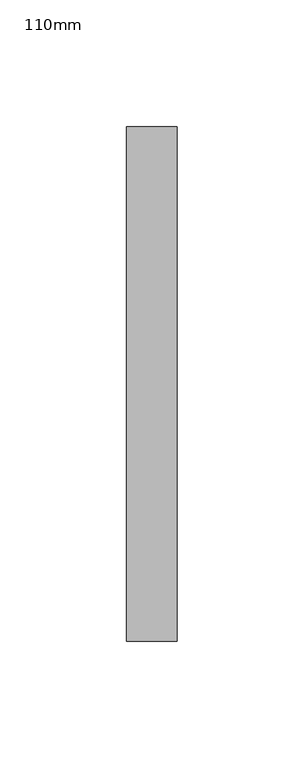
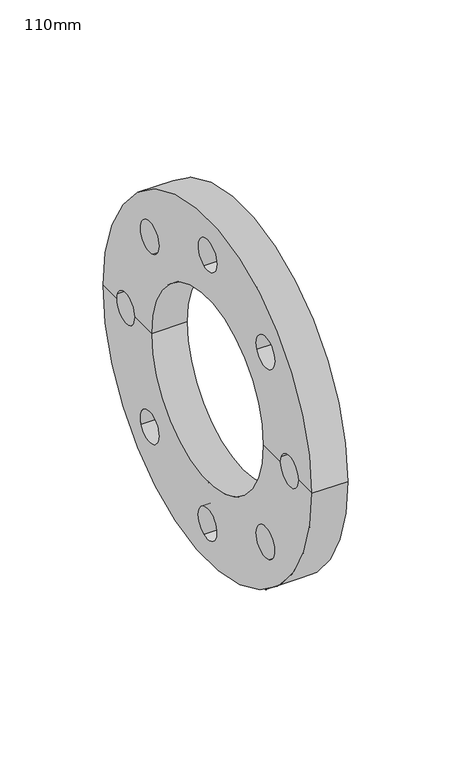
"""IFC4 building model written with IfcOpenShell, lengths in millimetres: pipe fitting geometry, Durapipe_PipeFitting_PVC_BackingFlange : 110mm."""

import ifcopenshell
import ifcopenshell.guid

model = None  # the IFC model being written
_history = None  # IfcOwnerHistory: only IFC2X3 demands one
_inside = {}  # id of a spatial element -> (the spatial element, [elements in it])
_under = {}  # id of a project, library or spatial element -> (it, [spatial elements below it])
_declared = {}  # id of a project -> (the project, [libraries it declares])
_typed = {}  # id of a type object -> (the type object, [elements of that type])
_made_of = {}  # id of a material, layer set ... -> (it, [elements and type objects made of it])


def new_model(schema):
    """Start an empty IFC model of exactly this schema.

    Asked for "IFC4X3", IfcOpenShell would pick the latest addendum, in which some entities
    have other attributes; the version numbers below select the first issue.
    IFC2X3 requires an IfcOwnerHistory on every rooted entity: one is made here for all.
    """
    global model, _history
    if schema == "IFC4X3":
        model = ifcopenshell.file(schema_version=(4, 3, 0, 0))
    else:
        model = ifcopenshell.file(schema=schema)
    _inside.clear()
    _under.clear()
    _declared.clear()
    _typed.clear()
    _made_of.clear()
    _history = None
    if model.schema == "IFC2X3":
        org = make("IfcOrganization", Name="unknown")
        user = make(
            "IfcPersonAndOrganization",
            ThePerson=make("IfcPerson", FamilyName="unknown"),
            TheOrganization=org,
        )
        app = make(
            "IfcApplication",
            ApplicationDeveloper=org,
            Version="unknown",
            ApplicationFullName="unknown",
            ApplicationIdentifier="unknown",
        )
        _history = make(
            "IfcOwnerHistory",
            OwningUser=user,
            OwningApplication=app,
            ChangeAction="ADDED",
            CreationDate=0,
        )
    return model


def make(cls, **values):
    """One entity of the class cls with the attributes given. An attribute that is None is left unset."""
    return model.create_entity(
        cls, **{name: value for name, value in values.items() if value is not None}
    )


def rooted(cls, **values):
    """An entity with a GlobalId (a new one), such as an element, a storey or a relation."""
    return make(cls, GlobalId=ifcopenshell.guid.new(), OwnerHistory=_history, **values)


def si_unit(unit_type, name, prefix=None):
    """IfcSIUnit, for example si_unit("LENGTHUNIT", "METRE", prefix="MILLI")."""
    return make("IfcSIUnit", UnitType=unit_type, Prefix=prefix, Name=name)


def assignment(units):
    """IfcUnitAssignment: the units of a project."""
    return None if units is None else make("IfcUnitAssignment", Units=units)


def point(xyz):
    """IfcCartesianPoint."""
    return None if xyz is None else make("IfcCartesianPoint", Coordinates=xyz)


def direction(xyz):
    """IfcDirection."""
    return None if xyz is None else make("IfcDirection", DirectionRatios=xyz)


def frame(location, z_axis=None, x_axis=None):
    """IfcAxis2Placement3D, a coordinate frame: its origin and axes. An axis left out is left unset."""
    return make(
        "IfcAxis2Placement3D",
        Location=point(location),
        Axis=direction(z_axis),
        RefDirection=direction(x_axis),
    )


def origin():
    """The frame at (0, 0, 0) with its axes left unset."""
    return frame((0.0, 0.0, 0.0))


def place(relative_to, where):
    """IfcLocalPlacement: puts the frame where relative to a parent placement (None: the world)."""
    return make(
        "IfcLocalPlacement", PlacementRelTo=relative_to, RelativePlacement=where
    )


def context(
    kind, dimensions, precision=None, world=None, true_north=None, identifier=None
):
    """IfcGeometricRepresentationContext, for example the 3D "Model" context."""
    return make(
        "IfcGeometricRepresentationContext",
        ContextIdentifier=identifier,
        ContextType=kind,
        CoordinateSpaceDimension=dimensions,
        Precision=precision,
        WorldCoordinateSystem=world,
        TrueNorth=true_north,
    )


def project(units=None, contexts=None):
    """IfcProject with its units and contexts."""
    return rooted(
        "IfcProject",
        Name="project",
        RepresentationContexts=contexts,
        UnitsInContext=assignment(units),
    )


def spatial(cls, under=None, at=None, **own):
    """A site, building, storey or space (cls), placed at a placement, below another one or the project."""
    s = rooted(cls, ObjectPlacement=at, **own)
    if under is not None:
        _under.setdefault(under.id(), (under, []))[1].append(s)
    return s


def polyline(points):
    """IfcPolyline through the points."""
    return make("IfcPolyline", Points=[point(p) for p in points])


def circle_curve(where, radius):
    """IfcCircle in the frame where."""
    return make("IfcCircle", Position=where, Radius=radius)


def shape(context_of_items, identifier, shape_type, items):
    """IfcShapeRepresentation: the items that make up one representation, for example the "Body"."""
    return make(
        "IfcShapeRepresentation",
        ContextOfItems=context_of_items,
        RepresentationIdentifier=identifier,
        RepresentationType=shape_type,
        Items=items,
    )


def source(mapping_origin, context_of_items, identifier, shape_type, items):
    """IfcRepresentationMap: a shape defined once, which mapped items show again and again."""
    return make(
        "IfcRepresentationMap",
        MappingOrigin=mapping_origin,
        MappedRepresentation=shape(context_of_items, identifier, shape_type, items),
    )


def transform(
    local_origin,
    x_axis=None,
    y_axis=None,
    z_axis=None,
    scale=None,
    scale2=None,
    scale3=None,
    uniform=True,
):
    """IfcCartesianTransformationOperator3D, or its non-uniform kind. x_axis, y_axis, z_axis: its Axis1, 2, 3."""
    if uniform:
        return make(
            "IfcCartesianTransformationOperator3D",
            Axis1=direction(x_axis),
            Axis2=direction(y_axis),
            LocalOrigin=point(local_origin),
            Scale=scale,
            Axis3=direction(z_axis),
        )
    return make(
        "IfcCartesianTransformationOperator3DnonUniform",
        Axis1=direction(x_axis),
        Axis2=direction(y_axis),
        LocalOrigin=point(local_origin),
        Scale=scale,
        Axis3=direction(z_axis),
        Scale2=scale2,
        Scale3=scale3,
    )


def mapped(mapping_source, mapping_target):
    """IfcMappedItem: shows the shape of a source again, moved by a transform."""
    return make(
        "IfcMappedItem", MappingSource=mapping_source, MappingTarget=mapping_target
    )


def made_of(thing, what):
    """Note that an element or type object is made of a material, layer set ...; save() writes the relation."""
    if what is not None:
        _made_of.setdefault(what.id(), (what, []))[1].append(thing)
    return thing


def element(
    cls,
    number,
    at=None,
    inside=None,
    cuts=None,
    type_object=None,
    material=None,
    context=None,
    identifier="Body",
    shape_type=None,
    held_by="IfcProductDefinitionShape",
    body=None,
    shapes=None,
    **own,
):
    """One element of the class cls, such as IfcWall. Its Tag is "e" and its number.

    at: its placement. inside: the storey or other place that contains it. cuts: it is an
    opening in that element (IfcRelVoidsElement). A single representation is given by context,
    identifier, shape_type and body (its items); several are given by shapes. held_by: the class
    of the entity that holds the representations. save() writes the other relations.
    """
    e = rooted(cls, Tag="e%d" % number, ObjectPlacement=at, **own)
    if body is not None:
        shapes = [shape(context, identifier, shape_type, body)]
    if shapes is not None:
        e.Representation = make(held_by, Representations=shapes)
    if inside is not None:
        _inside.setdefault(inside.id(), (inside, []))[1].append(e)
    if cuts is not None:
        rooted(
            "IfcRelVoidsElement", RelatingBuildingElement=cuts, RelatedOpeningElement=e
        )
    if type_object is not None:
        _typed.setdefault(type_object.id(), (type_object, []))[1].append(e)
    return made_of(e, material)


def aggregate(whole, parts):
    """IfcRelAggregates: a whole, such as a stair, and the parts it consists of."""
    return rooted("IfcRelAggregates", RelatingObject=whole, RelatedObjects=parts)


def save(model, path):
    """Write the relations noted so far, then the file.

    IfcRelAggregates (storeys below a building ...), IfcRelContainedInSpatialStructure (elements
    in a storey), IfcRelDefinesByType, IfcRelAssociatesMaterial and IfcRelDeclares: one each for
    every whole, place, type object, material and project.
    """
    for whole, parts in _under.values():
        aggregate(whole, parts)
    for where, things in _inside.values():
        rooted(
            "IfcRelContainedInSpatialStructure",
            RelatedElements=things,
            RelatingStructure=where,
        )
    for kind, things in _typed.values():
        rooted("IfcRelDefinesByType", RelatedObjects=things, RelatingType=kind)
    for what, things in _made_of.values():
        rooted("IfcRelAssociatesMaterial", RelatedObjects=things, RelatingMaterial=what)
    for by, libraries in _declared.values():
        rooted("IfcRelDeclares", RelatingContext=by, RelatedDefinitions=libraries)
    model.write(path)


def plane_surface(at):
    """IfcPlane: the flat surface through the origin of the frame at, square to its z axis."""
    return make("IfcPlane", Position=at)


def cylinder_surface(at, radius):
    """IfcCylindricalSurface: all points at the distance radius from the z axis of the frame at."""
    return make("IfcCylindricalSurface", Position=at, Radius=radius)


def revolved_surface(curve, axis_point, axis_direction):
    """IfcSurfaceOfRevolution: the curve turned about the line through axis_point along axis_direction."""
    return make(
        "IfcSurfaceOfRevolution",
        SweptCurve=make("IfcArbitraryOpenProfileDef", ProfileType="CURVE", Curve=curve),
        AxisPosition=make("IfcAxis1Placement", Location=point(axis_point), Axis=direction(axis_direction)),
    )


def advanced_brep(points, edges, surfaces, faces):
    """IfcAdvancedBrep: a solid bounded by faces that lie on surfaces and meet in shared edges.

    An edge is (start, end): straight between two places in points (the first is 0);
    or (start, end, curve); or (start, end, curve, False) where it runs against its curve.
    A face is (place in surfaces, loops), or (place, loops, False) where it looks against
    its surface's normal. A loop lists edges by number (the first is 1), with a minus sign
    where the edge is run from its end to its start. The first loop is the outer one.
    """
    corners = [point(p) for p in points]
    vertices = [make("IfcVertexPoint", VertexGeometry=c) for c in corners]
    made = []
    for start, end, *more in edges:
        made.append(
            make(
                "IfcEdgeCurve",
                EdgeStart=vertices[start],
                EdgeEnd=vertices[end],
                EdgeGeometry=more[0] if more else make("IfcPolyline", Points=[corners[start], corners[end]]),
                SameSense=more[1] if len(more) > 1 else True,
            )
        )
    hull = []
    for where, loops, *sense in faces:
        bounds = []
        for j, loop in enumerate(loops):
            ring = [make("IfcOrientedEdge", EdgeElement=made[abs(k) - 1], Orientation=k > 0) for k in loop]
            bounds.append(
                make(
                    "IfcFaceOuterBound" if j == 0 else "IfcFaceBound",
                    Bound=make("IfcEdgeLoop", EdgeList=ring),
                    Orientation=True,
                )
            )
        hull.append(make("IfcAdvancedFace", Bounds=bounds, FaceSurface=surfaces[where], SameSense=sense[0] if sense else True))
    return make("IfcAdvancedBrep", Outer=make("IfcClosedShell", CfsFaces=hull))


def pipe_fitting_110mm_35456027(model_context):
    return source(origin(), model_context, "Body", "AdvancedBrep", [
        advanced_brep(
        [(-10.0, 101.5, 0.0), (10.0, 101.5, 0.0), (10.0, -101.5, 0.0), (-10.0, -101.5, 0.0), (-10.0, -88.4999461, 0.0), (-10.0, -87.813631, -3.4767554), (-10.0, -70.5000429, 0.0), (-10.0, -54.5, 0.0), (-10.0, 54.5, 0.0), (-10.0, 70.5000429, 0.0), (-10.0, 71.1863581, -3.4177204), (-10.0, 88.4999461, 0.0), (-10.0, 64.5520512, -59.6351766), (-10.0, 47.9196632, -52.7530498), (-10.0, 3.4767554, -87.813631), (-10.0, -3.4177204, -71.1863581), (-10.0, -59.6351766, -64.5520512), (-10.0, -52.7530498, -47.9196632), (-10.0, 87.813631, 3.4767554), (-10.0, -71.1863581, 3.4177204), (-10.0, 59.6351766, 64.5520512), (-10.0, 52.7530498, 47.9196632), (-10.0, -3.4767554, 87.813631), (-10.0, 3.4177204, 71.1863581), (-10.0, -64.5520512, 59.6351766), (-10.0, -47.9196632, 52.7530498), (10.0, 54.5, 0.0), (10.0, -54.5, 0.0), (10.0, -70.5000429, 0.0), (10.0, -87.813631, -3.4767554), (10.0, -88.4999461, 0.0), (10.0, 88.4999461, 0.0), (10.0, 71.1863581, -3.4177204), (10.0, 70.5000429, 0.0), (10.0, 47.9196632, -52.7530498), (10.0, 64.5520512, -59.6351766), (10.0, -3.4177204, -71.1863581), (10.0, 3.4767554, -87.813631), (10.0, -52.7530498, -47.9196632), (10.0, -59.6351766, -64.5520512), (10.0, 87.813631, 3.4767554), (10.0, -71.1863581, 3.4177204), (10.0, 52.7530498, 47.9196632), (10.0, 59.6351766, 64.5520512), (10.0, 3.4177204, 71.1863581), (10.0, -3.4767554, 87.813631), (10.0, -47.9196632, 52.7530498), (10.0, -64.5520512, 59.6351766)],
        [
            (0, 1),
            (1, 2, circle_curve(frame((10.0, 0.0, 0.0), z_axis=(-1.0, 0.0, 0.0), x_axis=(0.0, 1.0, 0.0)), 101.5)),
            (2, 3),
            (3, 0, circle_curve(frame((-10.0, 0.0, 0.0), z_axis=(1.0, 0.0, 0.0), x_axis=(0.0, 1.0, 0.0)), 101.5)),
            (0, 3, circle_curve(frame((-10.0, 0.0, 0.0), z_axis=(1.0, 0.0, 0.0), x_axis=(0.0, 1.0, 0.0)), 101.5)),
            (2, 1, circle_curve(frame((10.0, 0.0, 0.0), z_axis=(-1.0, 0.0, 0.0), x_axis=(0.0, 1.0, 0.0)), 101.5)),
            (3, 4),
            (4, 5, circle_curve(frame((-10.0, -79.4999945, -0.0295175), z_axis=(1.0, 0.0, 0.0), x_axis=(0.0, -0.9237373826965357, -0.38302643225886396)), 9.0)),
            (5, 6, circle_curve(frame((-10.0, -79.4999945, -0.0295175), z_axis=(1.0, 0.0, 0.0), x_axis=(0.0, -0.9237373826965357, -0.38302643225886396)), 9.0)),
            (6, 7),
            (7, 8, circle_curve(frame((-10.0, 0.0, 0.0), z_axis=(1.0, 0.0, 0.0), x_axis=(0.0, 1.0, 0.0)), 54.5)),
            (8, 9),
            (9, 10, circle_curve(frame((-10.0, 79.4999945, 0.0295175), z_axis=(1.0, 0.0, 0.0), x_axis=(0.0, 0.92373738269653, 0.38302643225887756)), 9.0)),
            (10, 11, circle_curve(frame((-10.0, 79.4999945, 0.0295175), z_axis=(1.0, 0.0, 0.0), x_axis=(0.0, 0.92373738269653, 0.38302643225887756)), 9.0)),
            (11, 0),
            (12, 13, circle_curve(frame((-10.0, 56.2358572, -56.1941132), z_axis=(1.0, 0.0, 0.0), x_axis=(0.0, 0.9240215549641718, -0.3823403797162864)), 9.0)),
            (13, 12, circle_curve(frame((-10.0, 56.2358572, -56.1941132), z_axis=(1.0, 0.0, 0.0), x_axis=(0.0, 0.9240215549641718, -0.3823403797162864)), 9.0)),
            (14, 15, circle_curve(frame((-10.0, 0.0295175, -79.4999945), z_axis=(1.0, 0.0, 0.0), x_axis=(0.0, 0.3830264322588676, -0.9237373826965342)), 9.0)),
            (15, 14, circle_curve(frame((-10.0, 0.0295175, -79.4999945), z_axis=(1.0, 0.0, 0.0), x_axis=(0.0, 0.3830264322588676, -0.9237373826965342)), 9.0)),
            (16, 17, circle_curve(frame((-10.0, -56.1941132, -56.2358572), z_axis=(1.0, 0.0, 0.0), x_axis=(0.0, -0.3823403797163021, -0.9240215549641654)), 9.0)),
            (17, 16, circle_curve(frame((-10.0, -56.1941132, -56.2358572), z_axis=(1.0, 0.0, 0.0), x_axis=(0.0, -0.3823403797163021, -0.9240215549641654)), 9.0)),
            (11, 18, circle_curve(frame((-10.0, 79.4999945, 0.0295175), z_axis=(1.0, 0.0, 0.0), x_axis=(0.0, 0.92373738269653, 0.38302643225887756)), 9.0)),
            (18, 9, circle_curve(frame((-10.0, 79.4999945, 0.0295175), z_axis=(1.0, 0.0, 0.0), x_axis=(0.0, 0.92373738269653, 0.38302643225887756)), 9.0)),
            (8, 7, circle_curve(frame((-10.0, 0.0, 0.0), z_axis=(1.0, 0.0, 0.0), x_axis=(0.0, 1.0, 0.0)), 54.5)),
            (6, 19, circle_curve(frame((-10.0, -79.4999945, -0.0295175), z_axis=(1.0, 0.0, 0.0), x_axis=(0.0, -0.9237373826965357, -0.38302643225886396)), 9.0)),
            (19, 4, circle_curve(frame((-10.0, -79.4999945, -0.0295175), z_axis=(1.0, 0.0, 0.0), x_axis=(0.0, -0.9237373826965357, -0.38302643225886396)), 9.0)),
            (20, 21, circle_curve(frame((-10.0, 56.1941132, 56.2358572), z_axis=(1.0, 0.0, 0.0), x_axis=(0.0, 0.3823403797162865, 0.9240215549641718)), 9.0)),
            (21, 20, circle_curve(frame((-10.0, 56.1941132, 56.2358572), z_axis=(1.0, 0.0, 0.0), x_axis=(0.0, 0.3823403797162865, 0.9240215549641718)), 9.0)),
            (22, 23, circle_curve(frame((-10.0, -0.0295175, 79.4999945), z_axis=(1.0, 0.0, 0.0), x_axis=(0.0, -0.38302643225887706, 0.9237373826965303)), 9.0)),
            (23, 22, circle_curve(frame((-10.0, -0.0295175, 79.4999945), z_axis=(1.0, 0.0, 0.0), x_axis=(0.0, -0.38302643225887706, 0.9237373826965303)), 9.0)),
            (24, 25, circle_curve(frame((-10.0, -56.2358572, 56.1941132), z_axis=(1.0, 0.0, 0.0), x_axis=(0.0, -0.9240215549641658, 0.38234037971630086)), 9.0)),
            (25, 24, circle_curve(frame((-10.0, -56.2358572, 56.1941132), z_axis=(1.0, 0.0, 0.0), x_axis=(0.0, -0.9240215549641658, 0.38234037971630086)), 9.0)),
            (26, 8),
            (7, 27),
            (27, 26, circle_curve(frame((10.0, 0.0, 0.0), z_axis=(1.0, 0.0, 0.0), x_axis=(0.0, 1.0, 0.0)), 54.5)),
            (26, 27, circle_curve(frame((10.0, 0.0, 0.0), z_axis=(1.0, 0.0, 0.0), x_axis=(0.0, 1.0, 0.0)), 54.5)),
            (27, 28),
            (28, 29, circle_curve(frame((10.0, -79.4999945, -0.0295175), z_axis=(-1.0, 0.0, 0.0), x_axis=(0.0, -0.9237373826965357, -0.38302643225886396)), 9.0)),
            (29, 30, circle_curve(frame((10.0, -79.4999945, -0.0295175), z_axis=(-1.0, 0.0, 0.0), x_axis=(0.0, -0.9237373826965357, -0.38302643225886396)), 9.0)),
            (30, 2),
            (1, 31),
            (31, 32, circle_curve(frame((10.0, 79.4999945, 0.0295175), z_axis=(-1.0, 0.0, 0.0), x_axis=(0.0, 0.92373738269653, 0.38302643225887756)), 9.0)),
            (32, 33, circle_curve(frame((10.0, 79.4999945, 0.0295175), z_axis=(-1.0, 0.0, 0.0), x_axis=(0.0, 0.92373738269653, 0.38302643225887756)), 9.0)),
            (33, 26),
            (34, 35, circle_curve(frame((10.0, 56.2358572, -56.1941132), z_axis=(-1.0, 0.0, 0.0), x_axis=(0.0, 0.9240215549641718, -0.3823403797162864)), 9.0)),
            (35, 34, circle_curve(frame((10.0, 56.2358572, -56.1941132), z_axis=(-1.0, 0.0, 0.0), x_axis=(0.0, 0.9240215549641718, -0.3823403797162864)), 9.0)),
            (36, 37, circle_curve(frame((10.0, 0.0295175, -79.4999945), z_axis=(-1.0, 0.0, 0.0), x_axis=(0.0, 0.3830264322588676, -0.9237373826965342)), 9.0)),
            (37, 36, circle_curve(frame((10.0, 0.0295175, -79.4999945), z_axis=(-1.0, 0.0, 0.0), x_axis=(0.0, 0.3830264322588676, -0.9237373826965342)), 9.0)),
            (38, 39, circle_curve(frame((10.0, -56.1941132, -56.2358572), z_axis=(-1.0, 0.0, 0.0), x_axis=(0.0, -0.3823403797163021, -0.9240215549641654)), 9.0)),
            (39, 38, circle_curve(frame((10.0, -56.1941132, -56.2358572), z_axis=(-1.0, 0.0, 0.0), x_axis=(0.0, -0.3823403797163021, -0.9240215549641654)), 9.0)),
            (33, 40, circle_curve(frame((10.0, 79.4999945, 0.0295175), z_axis=(-1.0, 0.0, 0.0), x_axis=(0.0, 0.92373738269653, 0.38302643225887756)), 9.0)),
            (40, 31, circle_curve(frame((10.0, 79.4999945, 0.0295175), z_axis=(-1.0, 0.0, 0.0), x_axis=(0.0, 0.92373738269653, 0.38302643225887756)), 9.0)),
            (30, 41, circle_curve(frame((10.0, -79.4999945, -0.0295175), z_axis=(-1.0, 0.0, 0.0), x_axis=(0.0, -0.9237373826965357, -0.38302643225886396)), 9.0)),
            (41, 28, circle_curve(frame((10.0, -79.4999945, -0.0295175), z_axis=(-1.0, 0.0, 0.0), x_axis=(0.0, -0.9237373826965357, -0.38302643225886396)), 9.0)),
            (42, 43, circle_curve(frame((10.0, 56.1941132, 56.2358572), z_axis=(-1.0, 0.0, 0.0), x_axis=(0.0, 0.3823403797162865, 0.9240215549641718)), 9.0)),
            (43, 42, circle_curve(frame((10.0, 56.1941132, 56.2358572), z_axis=(-1.0, 0.0, 0.0), x_axis=(0.0, 0.3823403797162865, 0.9240215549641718)), 9.0)),
            (44, 45, circle_curve(frame((10.0, -0.0295175, 79.4999945), z_axis=(-1.0, 0.0, 0.0), x_axis=(0.0, -0.38302643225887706, 0.9237373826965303)), 9.0)),
            (45, 44, circle_curve(frame((10.0, -0.0295175, 79.4999945), z_axis=(-1.0, 0.0, 0.0), x_axis=(0.0, -0.38302643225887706, 0.9237373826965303)), 9.0)),
            (46, 47, circle_curve(frame((10.0, -56.2358572, 56.1941132), z_axis=(-1.0, 0.0, 0.0), x_axis=(0.0, -0.9240215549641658, 0.38234037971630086)), 9.0)),
            (47, 46, circle_curve(frame((10.0, -56.2358572, 56.1941132), z_axis=(-1.0, 0.0, 0.0), x_axis=(0.0, -0.9240215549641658, 0.38234037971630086)), 9.0)),
            (36, 15),
            (14, 37),
            (34, 13),
            (12, 35),
            (32, 10),
            (18, 40),
            (42, 21),
            (20, 43),
            (44, 23),
            (22, 45),
            (46, 25),
            (24, 47),
            (41, 19),
            (5, 29),
            (38, 17),
            (16, 39),
        ],
        [
            cylinder_surface(frame((-28.7738734, 0.0, 0.0), z_axis=(-1.0, 0.0, 0.0), x_axis=(0.0, 1.0, 0.0)), 101.5),
            plane_surface(frame((-10.0, 0.0, 0.0), z_axis=(-1.0, 0.0, 0.0), x_axis=(0.0, 1.0, 0.0))),
            revolved_surface(polyline([(-10.0, 54.5, 0.0), (10.0, 54.5, 0.0)]), (-28.7738734, 0.0, 0.0), (-1.0, 0.0, 0.0)),
            plane_surface(frame((10.0, 0.0, 0.0), z_axis=(1.0, 0.0, 0.0), x_axis=(0.0, 1.0, 0.0))),
            revolved_surface(polyline([(-10.000000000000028, 3.4767553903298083, -87.81363094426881), (9.999999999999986, 3.4767553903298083, -87.81363094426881)]), (40.0, 0.0295175, -79.4999945), (-1.0000000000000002, 0.0, 0.0)),
            revolved_surface(polyline([(-10.0, 64.55205119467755, -59.635176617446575), (10.0, 64.55205119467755, -59.635176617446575)]), (40.0, 56.2358572, -56.1941132), (-1.0, 0.0, 0.0)),
            revolved_surface(polyline([(-10.0, 87.81363094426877, 3.476755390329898), (10.0, 87.81363094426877, 3.476755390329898)]), (40.0, 79.4999945, 0.0295175), (-1.0, 0.0, 0.0)),
            revolved_surface(polyline([(-10.000000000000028, 59.635176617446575, 64.55205119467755), (9.999999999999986, 59.635176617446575, 64.55205119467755)]), (40.0, 56.1941132, 56.2358572), (-1.0000000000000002, 0.0, 0.0)),
            revolved_surface(polyline([(-10.000000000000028, -3.4767553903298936, 87.81363094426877), (9.999999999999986, -3.4767553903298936, 87.81363094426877)]), (40.0, -0.0295175, 79.4999945), (-1.0000000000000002, 0.0, 0.0)),
            revolved_surface(polyline([(-10.0, -64.55205119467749, 59.6351766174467), (10.0, -64.55205119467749, 59.6351766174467)]), (40.0, -56.2358572, 56.1941132), (-1.0, 0.0, 0.0)),
            revolved_surface(polyline([(-10.000000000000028, -87.81363094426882, -3.4767553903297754), (9.999999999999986, -87.81363094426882, -3.4767553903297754)]), (40.0, -79.4999945, -0.0295175), (-1.0000000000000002, 0.0, 0.0)),
            revolved_surface(polyline([(-10.000000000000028, -59.63517661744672, -64.55205119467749), (9.999999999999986, -59.63517661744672, -64.55205119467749)]), (40.0, -56.1941132, -56.2358572), (-1.0000000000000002, 0.0, 0.0)),
        ],
        [
            (0, [[1, 2, 3, 4]]),
            (0, [[-1, 5, -3, 6]]),
            (1, [[-4, 7, 8, 9, 10, 11, 12, 13, 14, 15], [16, 17], [18, 19], [20, 21]]),
            (1, [[-5, -15, 22, 23, -12, 24, -10, 25, 26, -7], [27, 28], [29, 30], [31, 32]]),
            (2, [[33, -11, 34, 35]]),
            (2, [[-33, 36, -34, -24]]),
            (3, [[-35, 37, 38, 39, 40, -2, 41, 42, 43, 44], [45, 46], [47, 48], [49, 50]]),
            (3, [[-36, -44, 51, 52, -41, -6, -40, 53, 54, -37], [55, 56], [57, 58], [59, 60]]),
            (4, [[61, -18, 62, -47]]),
            (4, [[-61, -48, -62, -19]]),
            (5, [[63, -16, 64, -45]]),
            (5, [[-63, -46, -64, -17]]),
            (6, [[65, -13, -23, 66, -51, -43]]),
            (6, [[-65, -42, -52, -66, -22, -14]]),
            (7, [[67, -27, 68, -55]]),
            (7, [[-67, -56, -68, -28]]),
            (8, [[69, -29, 70, -57]]),
            (8, [[-69, -58, -70, -30]]),
            (9, [[71, -31, 72, -59]]),
            (9, [[-71, -60, -72, -32]]),
            (10, [[73, -25, -9, 74, -38, -54]]),
            (10, [[-73, -53, -39, -74, -8, -26]]),
            (11, [[75, -20, 76, -49]]),
            (11, [[-75, -50, -76, -21]]),
        ],
    ),
    ])


if __name__ == "__main__":
    model = new_model("IFC4")
    model_context = context("Model", 3, world=origin())
    ifc_project = project(units=[si_unit("LENGTHUNIT", "METRE", prefix="MILLI")], contexts=[model_context])
    site = spatial("IfcSite", under=ifc_project)
    building = spatial("IfcBuilding", under=site)
    placement = place(None, origin())
    pipe_fitting_110mm_shape = pipe_fitting_110mm_35456027(model_context)
    element("IfcPipeFitting", 1, ObjectType="Durapipe_PipeFitting_PVC_BackingFlange : 110mm", at=placement, inside=building, context=model_context, shape_type="MappedRepresentation", body=[
        mapped(pipe_fitting_110mm_shape, transform((0.0, 0.0, 0.0), x_axis=(1.0, 0.0, 0.0), y_axis=(0.0, 1.0, 0.0), z_axis=(0.0, 0.0, 1.0))),
    ])
    save(model, "model.ifc")
